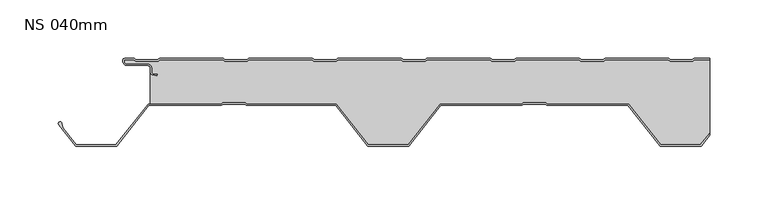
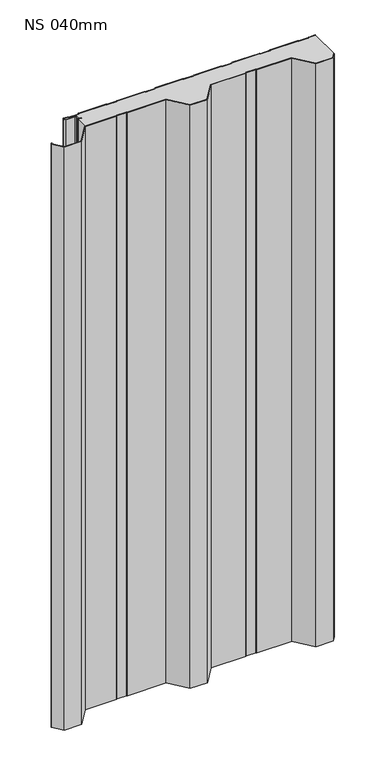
"""IFC4 building model written with IfcOpenShell, lengths in millimetres: plate geometry, KIP-MEX-KC-R19-CP-NS-SL : NS 040mm."""

from ifc_helpers import new_model, si_unit, point, frame_2d, origin, origin_with_axes, place, context, project, spatial, polyline, circle_curve, trimmed, segment, composite_curve, outline, extrude, source, transform, mapped, element, save


def ns_040mm_fbca6378(model_context):
    return source(origin(), model_context, "Body", "SweptSolid", [
        extrude(outline(composite_curve([segment(polyline([(227.1272744, -0.0163932), (239.9985695, -0.0159212), (239.9986062, -1.0159212), (226.97816, -1.0163987), (225.592571, -2.2166802), (206.2174047, -2.2173906), (204.8317278, -1.0172107), (150.7783124, -1.0191927), (149.3927235, -2.2194742), (130.0175572, -2.2201847), (128.6318802, -1.0200048), (74.5784649, -1.0219868), (73.1928759, -2.2222683), (53.8177096, -2.2229787), (52.4320327, -1.0227988), (-1.6213827, -1.0247808), (-3.0069716, -2.2250623), (-22.3821379, -2.2257728), (-23.7678149, -1.0255929), (-77.8212302, -1.0275749), (-79.2068192, -2.2278564), (-98.5819855, -2.2285668), (-99.9676624, -1.0283869), (-154.0210778, -1.0303689), (-155.4066667, -2.2306504), (-174.781833, -2.2313609), (-176.16751, -1.031181), (-230.2209253, -1.033163), (-231.6065143, -2.2334445), (-250.9816806, -2.2341549), (-252.3673703, -1.033964), (-260.8689318, -1.0342757), (-260.8688768, -2.5341955)]), True, "CONTINUOUS"), segment(trimmed(circle_curve(frame_2d((-258.3689725, -2.5341038)), 2.4999043), [point((-260.8688768, -2.5341955))], [point((-258.3688808, -5.0340081))], True, "CARTESIAN"), True, "CONTINUOUS"), segment(polyline([(-258.3688808, -5.0340081), (-240.3682958, -5.0333481)]), True, "CONTINUOUS"), segment(trimmed(circle_curve(frame_2d((-240.3681858, -8.033707)), 3.0003589), [point((-240.3682958, -5.0333481))], [point((-237.3678277, -8.031496))], False, "CARTESIAN"), True, "CONTINUOUS"), segment(polyline([(-237.3678277, -8.031496), (-237.3676959, -11.6278092)]), True, "CONTINUOUS"), segment(trimmed(circle_curve(frame_2d((-235.8669205, -11.6277541)), 1.5007756), [point((-237.3676959, -11.6278092))], [point((-236.1263478, -13.1059371))], True, "CARTESIAN"), True, "CONTINUOUS"), segment(polyline([(-236.1263478, -13.1059371), (-232.5839902, -13.7276357), (-232.7568524, -14.7125821), (-236.2992107, -14.0908834)]), True, "CONTINUOUS"), segment(trimmed(circle_curve(frame_2d((-235.8669212, -11.6277538)), 2.5007763), [point((-236.2992107, -14.0908834))], [point((-238.367697, -11.62932))], False, "CARTESIAN"), True, "CONTINUOUS"), segment(polyline([(-238.367697, -11.62932), (-238.3678289, -8.0321372)]), True, "CONTINUOUS"), segment(trimmed(circle_curve(frame_2d((-240.3681844, -8.0337097)), 2.0003562), [point((-238.3678289, -8.0321372))], [point((-240.3682578, -6.0333536))], True, "CARTESIAN"), True, "CONTINUOUS"), segment(polyline([(-240.3682578, -6.0333536), (-258.3688552, -6.0340136)]), True, "CONTINUOUS"), segment(trimmed(circle_curve(frame_2d((-258.3689836, -2.5340983)), 3.4999153), [point((-258.3688552, -6.0340136))], [point((-261.8688989, -2.5342266))], False, "CARTESIAN"), True, "CONTINUOUS"), segment(polyline([(-261.8688989, -2.5342266), (-261.8689355, -1.5343029)]), True, "CONTINUOUS"), segment(trimmed(circle_curve(frame_2d((-260.368956, -1.5342479)), 1.4999795), [point((-261.8689355, -1.5343029))], [point((-260.369011, -0.0342684))], False, "CARTESIAN"), True, "CONTINUOUS"), segment(polyline([(-260.369011, -0.0342684), (-252.5165453, -0.0339805)]), True, "CONTINUOUS"), segment(trimmed(circle_curve(frame_2d((-252.516494, -1.4339777)), 1.3999972), [point((-252.5165453, -0.0339805))], [point((-251.5999159, -0.3757354))], False, "CARTESIAN"), True, "CONTINUOUS"), segment(polyline([(-251.5999159, -0.3757354), (-250.6088368, -1.2341413), (-231.9794314, -1.2334582), (-230.9884152, -0.3749796)]), True, "CONTINUOUS"), segment(trimmed(circle_curve(frame_2d((-230.0717595, -1.4331547)), 1.3999972), [point((-230.9884152, -0.3749796))], [point((-230.0718109, -0.0331575))], False, "CARTESIAN"), True, "CONTINUOUS"), segment(polyline([(-230.0718109, -0.0331575), (-176.3166978, -0.0311864)]), True, "CONTINUOUS"), segment(trimmed(circle_curve(frame_2d((-176.3166465, -1.4311836)), 1.3999972), [point((-176.3166978, -0.0311864))], [point((-175.4000684, -0.3729413))], False, "CARTESIAN"), True, "CONTINUOUS"), segment(polyline([(-175.4000684, -0.3729413), (-174.4089893, -1.2313472), (-155.7795838, -1.2306641), (-154.7885677, -0.3721856)]), True, "CONTINUOUS"), segment(trimmed(circle_curve(frame_2d((-153.871912, -1.4303607)), 1.3999972), [point((-154.7885677, -0.3721856))], [point((-153.8719633, -0.0303635))], False, "CARTESIAN"), True, "CONTINUOUS"), segment(polyline([(-153.8719633, -0.0303635), (-100.1168502, -0.0283924)]), True, "CONTINUOUS"), segment(trimmed(circle_curve(frame_2d((-100.1167989, -1.4283896)), 1.3999972), [point((-100.1168502, -0.0283924))], [point((-99.2002208, -0.3701473))], False, "CARTESIAN"), True, "CONTINUOUS"), segment(polyline([(-99.2002208, -0.3701473), (-98.2091417, -1.2285531), (-79.5797363, -1.2278701), (-78.5887201, -0.3693915)]), True, "CONTINUOUS"), segment(trimmed(circle_curve(frame_2d((-77.6720644, -1.4275666)), 1.3999972), [point((-78.5887201, -0.3693915))], [point((-77.6721158, -0.0275694))], False, "CARTESIAN"), True, "CONTINUOUS"), segment(polyline([(-77.6721158, -0.0275694), (-23.9170027, -0.0255983)]), True, "CONTINUOUS"), segment(trimmed(circle_curve(frame_2d((-23.9169514, -1.4255955)), 1.3999972), [point((-23.9170027, -0.0255983))], [point((-23.0003733, -0.3673532))], False, "CARTESIAN"), True, "CONTINUOUS"), segment(polyline([(-23.0003733, -0.3673532), (-22.0092942, -1.2257591), (-3.3798887, -1.225076), (-2.3888726, -0.3665975)]), True, "CONTINUOUS"), segment(trimmed(circle_curve(frame_2d((-1.4722169, -1.4247725)), 1.3999972), [point((-2.3888726, -0.3665975))], [point((-1.4722682, -0.0247754))], False, "CARTESIAN"), True, "CONTINUOUS"), segment(polyline([(-1.4722682, -0.0247754), (52.2828449, -0.0228043)]), True, "CONTINUOUS"), segment(trimmed(circle_curve(frame_2d((52.2828962, -1.4228015)), 1.3999972), [point((52.2828449, -0.0228043))], [point((53.1994743, -0.3645592))], False, "CARTESIAN"), True, "CONTINUOUS"), segment(polyline([(53.1994743, -0.3645592), (54.1905534, -1.222965), (72.8199588, -1.222282), (73.810975, -0.3638034)]), True, "CONTINUOUS"), segment(trimmed(circle_curve(frame_2d((74.7276307, -1.4219785)), 1.3999972), [point((73.810975, -0.3638034))], [point((74.7275793, -0.0219813))], False, "CARTESIAN"), True, "CONTINUOUS"), segment(polyline([(74.7275793, -0.0219813), (128.4826924, -0.0200102)]), True, "CONTINUOUS"), segment(trimmed(circle_curve(frame_2d((128.4827437, -1.4200074)), 1.3999972), [point((128.4826924, -0.0200102))], [point((129.3993218, -0.3617651))], False, "CARTESIAN"), True, "CONTINUOUS"), segment(polyline([(129.3993218, -0.3617651), (130.3904009, -1.220171), (149.0198064, -1.2194879), (150.0108225, -0.3610094)]), True, "CONTINUOUS"), segment(trimmed(circle_curve(frame_2d((150.9274782, -1.4191844)), 1.3999972), [point((150.0108225, -0.3610094))], [point((150.9274269, -0.0191872))], False, "CARTESIAN"), True, "CONTINUOUS"), segment(polyline([(150.9274269, -0.0191872), (204.6825399, -0.0172162)]), True, "CONTINUOUS"), segment(trimmed(circle_curve(frame_2d((204.6825913, -1.4172134)), 1.3999972), [point((204.6825399, -0.0172162))], [point((205.5991694, -0.3589711))], False, "CARTESIAN"), True, "CONTINUOUS"), segment(polyline([(205.5991694, -0.3589711), (206.5902485, -1.2173769), (225.2196539, -1.2166938), (226.2106701, -0.3582153)]), True, "CONTINUOUS"), segment(trimmed(circle_curve(frame_2d((227.1273258, -1.4163904)), 1.3999972), [point((226.2106701, -0.3582153))], [point((227.1272744, -0.0163932))], False, "CARTESIAN"), True, "CONTINUOUS")], self_intersect=False)), origin_with_axes(), (0.0, 0.0, 1.0), 1224.3718713),
        extrude(outline(composite_curve([segment(polyline([(-314.0514565, -55.3743988), (-313.3501987, -59.3468053), (-301.8079514, -74.0358259), (-267.7799839, -74.0345782), (-240.2812374, -39.0335319), (-177.8440581, -39.0312425), (-176.4298117, -38.0311895), (-157.22229, -38.0304852), (-155.8079703, -39.0304345), (-79.3089933, -39.0276295), (-51.8076802, -74.0266591), (-17.7797127, -74.0254113), (9.7190337, -39.024365), (79.1871118, -39.0218178), (80.6013583, -38.0217649), (99.8088799, -38.0210606), (101.2231997, -39.0210098), (170.6912778, -39.0184626), (198.192591, -74.0174922), (232.2205584, -74.0162445), (240.0009198, -64.1132189), (240.0009791, -65.7318093), (232.7066303, -75.0162266), (197.7065924, -75.01751), (170.2052792, -40.0184804), (100.9054116, -40.0210215), (99.4910918, -39.0210722), (80.9192197, -39.0217532), (79.5049733, -40.0218062), (10.2051057, -40.0243472), (-17.2936408, -75.0253935), (-52.2936788, -75.0266769), (-79.7949919, -40.0276473), (-156.1257584, -40.0304461), (-157.5400781, -39.0304969), (-176.1119503, -39.0311779), (-177.5261967, -40.0312308), (-239.7951655, -40.0335141), (-267.2939119, -75.0345604), (-302.2939499, -75.0358437), (-316.6619777, -56.7506476)]), True, "CONTINUOUS"), segment(trimmed(circle_curve(frame_2d((-315.482533, -55.8238709)), 1.5000016), [point((-316.6619777, -56.7506476))], [point((-314.0514565, -55.3743988))], False, "CARTESIAN"), True, "CONTINUOUS")], self_intersect=False)), origin_with_axes(), (0.0, 0.0, 1.0), 1224.3718713),
        extrude(outline(composite_curve([segment(polyline([(-238.3666921, -39.0334617), (-238.3676969, -11.6293311)]), True, "CONTINUOUS"), segment(trimmed(circle_curve(frame_2d((-235.8669212, -11.6277649)), 2.5007762), [point((-238.3676969, -11.6293311))], [point((-236.2992108, -14.0908945))], True, "CARTESIAN"), True, "CONTINUOUS"), segment(polyline([(-236.2992108, -14.0908945), (-232.7568524, -14.7125932), (-232.5839902, -13.7276467), (-236.1263477, -13.1059481)]), True, "CONTINUOUS"), segment(trimmed(circle_curve(frame_2d((-235.8669204, -11.6277653)), 1.5007755), [point((-236.1263477, -13.1059481))], [point((-237.3676959, -11.6278203))], False, "CARTESIAN"), True, "CONTINUOUS"), segment(polyline([(-237.3676959, -11.6278203), (-237.3678278, -8.031507)]), True, "CONTINUOUS"), segment(trimmed(circle_curve(frame_2d((-240.3681859, -8.033718)), 3.0003589), [point((-237.3678278, -8.031507))], [point((-240.3682959, -5.0333591))], True, "CARTESIAN"), True, "CONTINUOUS"), segment(polyline([(-240.3682959, -5.0333591), (-258.3688808, -5.0340192)]), True, "CONTINUOUS"), segment(trimmed(circle_curve(frame_2d((-258.3689725, -2.5341149)), 2.4999043), [point((-258.3688808, -5.0340192))], [point((-260.8688768, -2.5342066))], False, "CARTESIAN"), True, "CONTINUOUS"), segment(polyline([(-260.8688768, -2.5342066), (-260.8689318, -1.0342784), (-252.3673672, -1.0339667), (-250.9816805, -2.2341549), (-231.6065142, -2.2334445), (-230.2209253, -1.033163), (-176.1675099, -1.031181), (-174.781833, -2.2313609), (-155.4066667, -2.2306504), (-154.0210777, -1.0303689), (-99.9676624, -1.0283869), (-98.5819854, -2.2285668), (-79.2068191, -2.2278564), (-77.8212302, -1.0275749), (-23.7678148, -1.0255929), (-22.3821379, -2.2257728), (-3.0069716, -2.2250623), (-1.6213826, -1.0247808), (52.4320327, -1.0227988), (53.8177097, -2.2229787), (73.192876, -2.2222683), (74.5784649, -1.0219868), (128.6318803, -1.0200048), (130.0175572, -2.2201847), (149.3927235, -2.2194742), (150.7783125, -1.0191927), (204.8317278, -1.0172107), (206.2174048, -2.2173906), (225.5925711, -2.2166802), (226.97816, -1.0163987), (239.9986062, -1.0159212), (240.0009198, -64.1132189), (232.2205584, -74.0162445), (198.192591, -74.0174922), (170.6912778, -39.0184626), (101.2231997, -39.0210098), (99.8088799, -38.0210606), (80.6013583, -38.0217649), (79.1871118, -39.0218178), (9.7190337, -39.024365), (-17.7797127, -74.0254113), (-51.8076802, -74.0266591), (-79.3089933, -39.0276295), (-155.8079703, -39.0304345), (-157.22229, -38.0304852), (-176.4298117, -38.0311895), (-177.8440581, -39.0312425), (-238.3666921, -39.0334617)]), True, "CONTINUOUS")], self_intersect=False)), origin_with_axes(), (0.0, 0.0, 1.0), 1224.3718713),
    ])


if __name__ == "__main__":
    model = new_model("IFC4")
    model_context = context("Model", 3, world=origin())
    ifc_project = project(units=[si_unit("LENGTHUNIT", "METRE", prefix="MILLI")], contexts=[model_context])
    site = spatial("IfcSite", under=ifc_project)
    building = spatial("IfcBuilding", under=site)
    placement = place(None, origin())
    ns_040mm_shape = ns_040mm_fbca6378(model_context)
    element("IfcPlate", 1, ObjectType="KIP-MEX-KC-R19-CP-NS-SL : NS 040mm", at=placement, inside=building, context=model_context, shape_type="MappedRepresentation", body=[
        mapped(ns_040mm_shape, transform((0.0, 0.0, 0.0), x_axis=(1.0, 0.0, 0.0), y_axis=(0.0, 1.0, 0.0), z_axis=(0.0, 0.0, 1.0))),
    ])
    save(model, "model.ifc")
